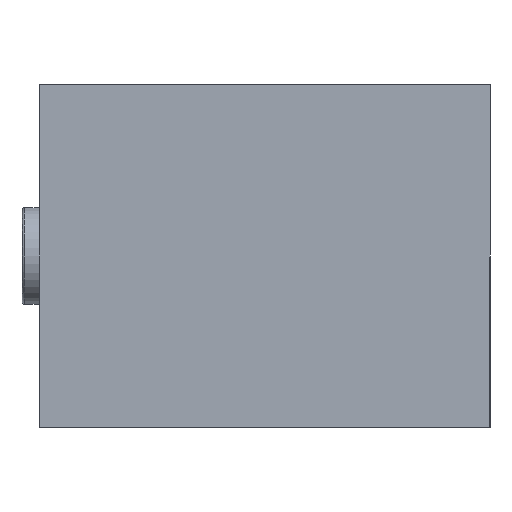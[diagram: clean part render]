
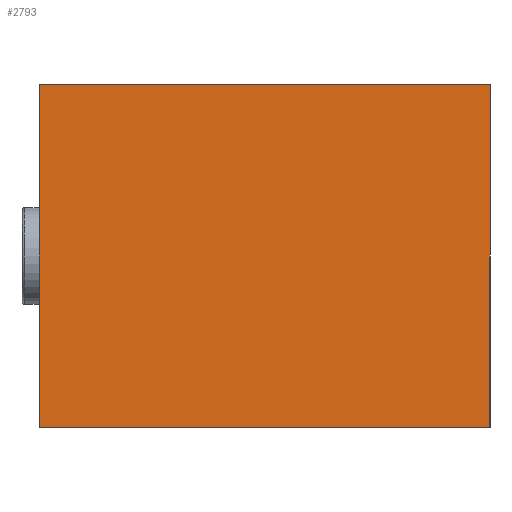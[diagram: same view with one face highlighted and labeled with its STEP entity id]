
A CAD part, front view. The second image highlights one B-rep face of the part: STEP entity #2793.
In plain terms, the highlighted planar face has unit normal (0, -1, 0).
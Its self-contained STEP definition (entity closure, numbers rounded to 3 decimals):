
#130 = EDGE_CURVE ( 'NONE', #1122, #1455, #1444, .T. ) ;
#214 = LINE ( 'NONE', #2788, #704 ) ;
#265 = CARTESIAN_POINT ( 'NONE',  ( -62.5, 0., 47.5 ) ) ;
#419 = ORIENTED_EDGE ( 'NONE', *, *, #130, .F. ) ;
#472 = CARTESIAN_POINT ( 'NONE',  ( 62.5, 0., -47.5 ) ) ;
#516 = ORIENTED_EDGE ( 'NONE', *, *, #668, .F. ) ;
#524 = FACE_OUTER_BOUND ( 'NONE', #2780, .T. ) ;
#531 = CARTESIAN_POINT ( 'NONE',  ( 62.5, 0., -47.5 ) ) ;
#566 = DIRECTION ( 'NONE',  ( 1., 0., 0. ) ) ;
#618 = CARTESIAN_POINT ( 'NONE',  ( -62.5, 0., -47.5 ) ) ;
#637 = LINE ( 'NONE', #618, #1269 ) ;
#668 = EDGE_CURVE ( 'NONE', #1455, #1272, #2603, .T. ) ;
#704 = VECTOR ( 'NONE', #1409, 1000. ) ;
#722 = DIRECTION ( 'NONE',  ( 0., 1., 0. ) ) ;
#780 = VECTOR ( 'NONE', #1606, 1000. ) ;
#876 = EDGE_CURVE ( 'NONE', #1272, #1862, #637, .T. ) ;
#879 = DIRECTION ( 'NONE',  ( -1., 0., 0. ) ) ;
#1122 = VERTEX_POINT ( 'NONE', #2083 ) ;
#1208 = CARTESIAN_POINT ( 'NONE',  ( 0., 0., 0. ) ) ;
#1269 = VECTOR ( 'NONE', #879, 1000. ) ;
#1272 = VERTEX_POINT ( 'NONE', #531 ) ;
#1285 = CARTESIAN_POINT ( 'NONE',  ( 62.5, 0., 47.5 ) ) ;
#1318 = ORIENTED_EDGE ( 'NONE', *, *, #2278, .F. ) ;
#1409 = DIRECTION ( 'NONE',  ( 0., 0., 1. ) ) ;
#1415 = PLANE ( 'NONE',  #2126 ) ;
#1444 = LINE ( 'NONE', #265, #2017 ) ;
#1455 = VERTEX_POINT ( 'NONE', #1285 ) ;
#1606 = DIRECTION ( 'NONE',  ( 0., 0., -1. ) ) ;
#1862 = VERTEX_POINT ( 'NONE', #2513 ) ;
#2017 = VECTOR ( 'NONE', #566, 1000. ) ;
#2083 = CARTESIAN_POINT ( 'NONE',  ( -62.5, 0., 47.5 ) ) ;
#2126 = AXIS2_PLACEMENT_3D ( 'NONE', #1208, #722, #2548 ) ;
#2278 = EDGE_CURVE ( 'NONE', #1862, #1122, #214, .T. ) ;
#2513 = CARTESIAN_POINT ( 'NONE',  ( -62.5, 0., -47.5 ) ) ;
#2548 = DIRECTION ( 'NONE',  ( 0., 0., 1. ) ) ;
#2603 = LINE ( 'NONE', #472, #780 ) ;
#2780 = EDGE_LOOP ( 'NONE', ( #516, #419, #1318, #2889 ) ) ;
#2788 = CARTESIAN_POINT ( 'NONE',  ( -62.5, 0., -47.5 ) ) ;
#2793 = ADVANCED_FACE ( 'NONE', ( #524 ), #1415, .F. ) ;
#2889 = ORIENTED_EDGE ( 'NONE', *, *, #876, .F. ) ;
